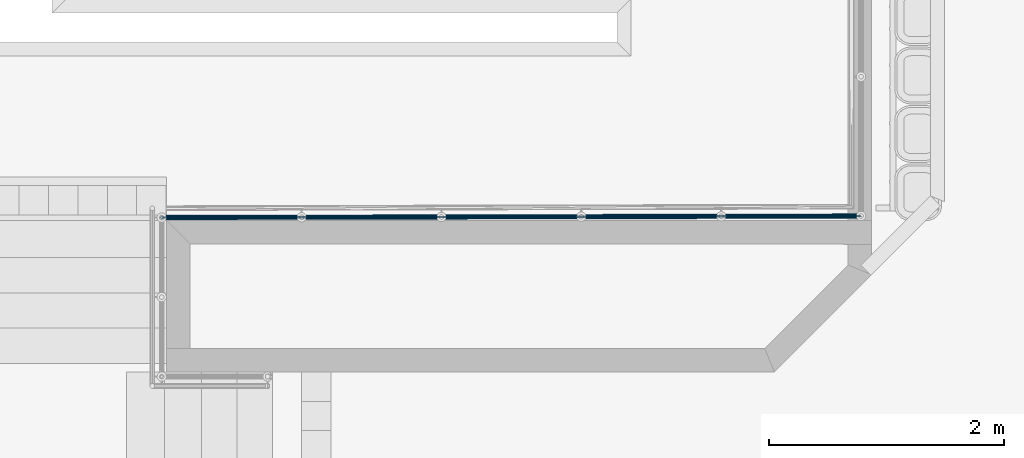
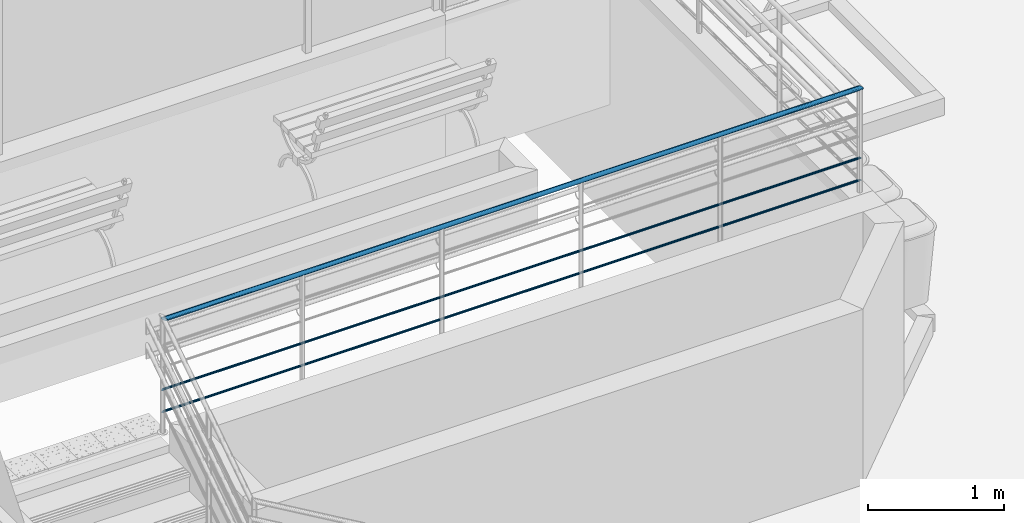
# One storey, part 68 of 237: 4 building element parts, 1 element without a shape of its own.
"""IFC2X3 building model written with IfcOpenShell, lengths in millimetres."""

import ifcopenshell
import ifcopenshell.guid

model = None  # the IFC model being written
_history = None  # IfcOwnerHistory: only IFC2X3 demands one
_inside = {}  # id of a spatial element -> (the spatial element, [elements in it])
_under = {}  # id of a project, library or spatial element -> (it, [spatial elements below it])
_declared = {}  # id of a project -> (the project, [libraries it declares])
_typed = {}  # id of a type object -> (the type object, [elements of that type])
_made_of = {}  # id of a material, layer set ... -> (it, [elements and type objects made of it])


def new_model(schema):
    """Start an empty IFC model of exactly this schema.

    Asked for "IFC4X3", IfcOpenShell would pick the latest addendum, in which some entities
    have other attributes; the version numbers below select the first issue.
    IFC2X3 requires an IfcOwnerHistory on every rooted entity: one is made here for all.
    """
    global model, _history
    if schema == "IFC4X3":
        model = ifcopenshell.file(schema_version=(4, 3, 0, 0))
    else:
        model = ifcopenshell.file(schema=schema)
    _inside.clear()
    _under.clear()
    _declared.clear()
    _typed.clear()
    _made_of.clear()
    _history = None
    if model.schema == "IFC2X3":
        org = make("IfcOrganization", Name="unknown")
        user = make(
            "IfcPersonAndOrganization",
            ThePerson=make("IfcPerson", FamilyName="unknown"),
            TheOrganization=org,
        )
        app = make(
            "IfcApplication",
            ApplicationDeveloper=org,
            Version="unknown",
            ApplicationFullName="unknown",
            ApplicationIdentifier="unknown",
        )
        _history = make(
            "IfcOwnerHistory",
            OwningUser=user,
            OwningApplication=app,
            ChangeAction="ADDED",
            CreationDate=0,
        )
    return model


def make(cls, **values):
    """One entity of the class cls with the attributes given. An attribute that is None is left unset."""
    return model.create_entity(
        cls, **{name: value for name, value in values.items() if value is not None}
    )


def entity(cls, *values):
    """Any entity or typed value of the class cls, its attributes in the order of the schema. None: left unset."""
    e = model.create_entity(cls)
    for i, value in enumerate(values):
        if value is not None:
            e[i] = value
    return e


def rooted(cls, **values):
    """An entity with a GlobalId (a new one), such as an element, a storey or a relation."""
    return make(cls, GlobalId=ifcopenshell.guid.new(), OwnerHistory=_history, **values)


def si_unit(unit_type, name, prefix=None):
    """IfcSIUnit, for example si_unit("LENGTHUNIT", "METRE", prefix="MILLI")."""
    return make("IfcSIUnit", UnitType=unit_type, Prefix=prefix, Name=name)


def converted_unit(unit_type, name, factor, base, dimensions=None, offset=None):
    """IfcConversionBasedUnit, such as the inch: factor (a typed value) times the base unit."""
    return make(
        "IfcConversionBasedUnit"
        if offset is None
        else "IfcConversionBasedUnitWithOffset",
        ConversionOffset=offset,
        Dimensions=None
        if dimensions is None
        else entity("IfcDimensionalExponents", *dimensions),
        UnitType=unit_type,
        Name=name,
        ConversionFactor=make(
            "IfcMeasureWithUnit", ValueComponent=factor, UnitComponent=base
        ),
    )


def derived_unit(unit_type, elements):
    """IfcDerivedUnit: a product of units, each with its exponent."""
    return make(
        "IfcDerivedUnit",
        Elements=[
            make("IfcDerivedUnitElement", Unit=unit, Exponent=power)
            for unit, power in elements
        ],
        UnitType=unit_type,
    )


def money_unit(currency):
    """IfcMonetaryUnit."""
    return make("IfcMonetaryUnit", Currency=currency)


def assignment(units):
    """IfcUnitAssignment: the units of a project."""
    return None if units is None else make("IfcUnitAssignment", Units=units)


def point(xyz):
    """IfcCartesianPoint."""
    return None if xyz is None else make("IfcCartesianPoint", Coordinates=xyz)


def direction(xyz):
    """IfcDirection."""
    return None if xyz is None else make("IfcDirection", DirectionRatios=xyz)


def frame(location, z_axis=None, x_axis=None):
    """IfcAxis2Placement3D, a coordinate frame: its origin and axes. An axis left out is left unset."""
    return make(
        "IfcAxis2Placement3D",
        Location=point(location),
        Axis=direction(z_axis),
        RefDirection=direction(x_axis),
    )


def origin_with_axes():
    """The frame at (0, 0, 0) with the z axis (0, 0, 1) and the x axis (1, 0, 0) written out."""
    return frame((0.0, 0.0, 0.0), z_axis=(0.0, 0.0, 1.0), x_axis=(1.0, 0.0, 0.0))


def place(relative_to, where):
    """IfcLocalPlacement: puts the frame where relative to a parent placement (None: the world)."""
    return make(
        "IfcLocalPlacement", PlacementRelTo=relative_to, RelativePlacement=where
    )


def context(
    kind, dimensions, precision=None, world=None, true_north=None, identifier=None
):
    """IfcGeometricRepresentationContext, for example the 3D "Model" context."""
    return make(
        "IfcGeometricRepresentationContext",
        ContextIdentifier=identifier,
        ContextType=kind,
        CoordinateSpaceDimension=dimensions,
        Precision=precision,
        WorldCoordinateSystem=world,
        TrueNorth=true_north,
    )


def subcontext(parent, identifier, kind, view, scale=None):
    """IfcGeometricRepresentationSubContext, for example "Body" below "Model"."""
    return make(
        "IfcGeometricRepresentationSubContext",
        ContextIdentifier=identifier,
        ContextType=kind,
        ParentContext=parent,
        TargetScale=scale,
        TargetView=view,
    )


def project(units=None, contexts=None):
    """IfcProject with its units and contexts."""
    return rooted(
        "IfcProject",
        Name="project",
        RepresentationContexts=contexts,
        UnitsInContext=assignment(units),
    )


def spatial(cls, under=None, at=None, **own):
    """A site, building, storey or space (cls), placed at a placement, below another one or the project."""
    s = rooted(cls, ObjectPlacement=at, **own)
    if under is not None:
        _under.setdefault(under.id(), (under, []))[1].append(s)
    return s


def faces_of(points, faces, orient=None, outer=None):
    """IfcFace entities. A face is a list of loops; a loop is a list of indices into points, from 0.

    orient and outer hold one flag for each loop. By default every Orientation is true, the
    first loop of a face is its IfcFaceOuterBound and the others are IfcFaceBound.
    """
    made = []
    for i, loops in enumerate(faces):
        bounds = []
        for j, loop in enumerate(loops):
            is_outer = j == 0 if outer is None else outer[i][j]
            bounds.append(
                make(
                    "IfcFaceOuterBound" if is_outer else "IfcFaceBound",
                    Bound=make("IfcPolyLoop", Polygon=[points[k] for k in loop]),
                    Orientation=True if orient is None else orient[i][j],
                )
            )
        made.append(make("IfcFace", Bounds=bounds))
    return made


def faceted_brep(points, faces, orient=None, outer=None, voids=None):
    """IfcFacetedBrep: a solid bounded by flat faces; with voids (closed shells), ...WithVoids."""
    shared = [point(p) for p in points]
    hull = make("IfcClosedShell", CfsFaces=faces_of(shared, faces, orient, outer))
    if voids is None:
        return make("IfcFacetedBrep", Outer=hull)
    return make(
        "IfcFacetedBrepWithVoids",
        Outer=hull,
        Voids=[
            make(cls, CfsFaces=faces_of(shared, fs, o, b)) for cls, fs, o, b in voids
        ],
    )


def shape(context_of_items, identifier, shape_type, items):
    """IfcShapeRepresentation: the items that make up one representation, for example the "Body"."""
    return make(
        "IfcShapeRepresentation",
        ContextOfItems=context_of_items,
        RepresentationIdentifier=identifier,
        RepresentationType=shape_type,
        Items=items,
    )


def material(Name=None, Category=None):
    """IfcMaterial."""
    return make("IfcMaterial", Name=Name, Category=Category)


def made_of(thing, what):
    """Note that an element or type object is made of a material, layer set ...; save() writes the relation."""
    if what is not None:
        _made_of.setdefault(what.id(), (what, []))[1].append(thing)
    return thing


def type_object(cls, material=None, **own):
    """A type object (cls), such as IfcWallType, which elements share."""
    return made_of(rooted(cls, **own), material)


def element(
    cls,
    number,
    at=None,
    inside=None,
    cuts=None,
    type_object=None,
    material=None,
    context=None,
    identifier="Body",
    shape_type=None,
    held_by="IfcProductDefinitionShape",
    body=None,
    shapes=None,
    **own,
):
    """One element of the class cls, such as IfcWall. Its Tag is "e" and its number.

    at: its placement. inside: the storey or other place that contains it. cuts: it is an
    opening in that element (IfcRelVoidsElement). A single representation is given by context,
    identifier, shape_type and body (its items); several are given by shapes. held_by: the class
    of the entity that holds the representations. save() writes the other relations.
    """
    e = rooted(cls, Tag="e%d" % number, ObjectPlacement=at, **own)
    if body is not None:
        shapes = [shape(context, identifier, shape_type, body)]
    if shapes is not None:
        e.Representation = make(held_by, Representations=shapes)
    if inside is not None:
        _inside.setdefault(inside.id(), (inside, []))[1].append(e)
    if cuts is not None:
        rooted(
            "IfcRelVoidsElement", RelatingBuildingElement=cuts, RelatedOpeningElement=e
        )
    if type_object is not None:
        _typed.setdefault(type_object.id(), (type_object, []))[1].append(e)
    return made_of(e, material)


def aggregate(whole, parts):
    """IfcRelAggregates: a whole, such as a stair, and the parts it consists of."""
    return rooted("IfcRelAggregates", RelatingObject=whole, RelatedObjects=parts)


def save(model, path):
    """Write the relations noted so far, then the file.

    IfcRelAggregates (storeys below a building ...), IfcRelContainedInSpatialStructure (elements
    in a storey), IfcRelDefinesByType, IfcRelAssociatesMaterial and IfcRelDeclares: one each for
    every whole, place, type object, material and project.
    """
    for whole, parts in _under.values():
        aggregate(whole, parts)
    for where, things in _inside.values():
        rooted(
            "IfcRelContainedInSpatialStructure",
            RelatedElements=things,
            RelatingStructure=where,
        )
    for kind, things in _typed.values():
        rooted("IfcRelDefinesByType", RelatedObjects=things, RelatingType=kind)
    for what, things in _made_of.values():
        rooted("IfcRelAssociatesMaterial", RelatedObjects=things, RelatingMaterial=what)
    for by, libraries in _declared.values():
        rooted("IfcRelDeclares", RelatingContext=by, RelatedDefinitions=libraries)
    model.write(path)


model = new_model("IFC2X3")

# Units and contexts
model_context = context("Model", 3, precision=0.01, world=origin_with_axes(), true_north=direction((0.0, 1.0)))
body_context = subcontext(model_context, "Body", "Model", "MODEL_VIEW")
ifc_project = project(units=[si_unit("LENGTHUNIT", "METRE", prefix="MILLI"), si_unit("AREAUNIT", "SQUARE_METRE"), si_unit("VOLUMEUNIT", "CUBIC_METRE"), converted_unit("PLANEANGLEUNIT", "DEGREE", entity("IfcPlaneAngleMeasure", 0.0174532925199), si_unit("PLANEANGLEUNIT", "RADIAN"), dimensions=[0, 0, 0, 0, 0, 0, 0]), money_unit("USD"), converted_unit("TIMEUNIT", "Year", entity("IfcTimeMeasure", 31556926.0), si_unit("TIMEUNIT", "SECOND"), dimensions=[0, 0, 1, 0, 0, 0, 0]), si_unit("MASSUNIT", "GRAM", prefix="KILO"), si_unit("THERMODYNAMICTEMPERATUREUNIT", "DEGREE_CELSIUS"), si_unit("LUMINOUSINTENSITYUNIT", "LUMEN"), si_unit("ENERGYUNIT", "JOULE", prefix="MEGA"), derived_unit("THERMALCONDUCTANCEUNIT", [(si_unit("POWERUNIT", "WATT"), 1), (si_unit("LENGTHUNIT", "METRE"), -1), (si_unit("THERMODYNAMICTEMPERATUREUNIT", "KELVIN"), -1)]), derived_unit("SPECIFICHEATCAPACITYUNIT", [(si_unit("ENERGYUNIT", "JOULE"), 1), (si_unit("MASSUNIT", "GRAM", prefix="KILO"), -1), (si_unit("THERMODYNAMICTEMPERATUREUNIT", "KELVIN"), -1)]), derived_unit("MASSDENSITYUNIT", [(si_unit("MASSUNIT", "GRAM", prefix="KILO"), 1), (si_unit("VOLUMEUNIT", "CUBIC_METRE"), -1)])], contexts=[model_context])

# Site, building, storey
site_placement = place(None, origin_with_axes())
site = spatial("IfcSite", under=ifc_project, at=site_placement, Name="Local", CompositionType="ELEMENT")
building_placement = place(site_placement, origin_with_axes())
building = spatial("IfcBuilding", under=site, at=building_placement, Name="Construção", CompositionType="ELEMENT")
storey_placement = place(building_placement, origin_with_axes())
storey = spatial("IfcBuildingStorey", under=building, at=storey_placement, Name="Pavimento Térreo", CompositionType="ELEMENT", Elevation=0.0)

# Railing, building element parts
railing_type = type_object("IfcRailingType", Name="Tipo de Guarda-Corpo", PredefinedType="NOTDEFINED")
railing_placement = place(storey_placement, frame((84562.8908804, 21657.2175927, -4868.39227091), z_axis=(0.0, 0.0, 1.0), x_axis=(1.0, 0.0, 0.0)))
railing = element("IfcRailing", 1, at=railing_placement, inside=storey, type_object=railing_type, Name="Guarda-Corpo - 002", PredefinedType="NOTDEFINED")
ifc_material = material(Name="Aço - Inoxidável")
building_element_part_1_placement = place(railing_placement, origin_with_axes())
building_element_part_1 = element("IfcBuildingElementPart", 2, at=building_element_part_1_placement, material=ifc_material, Name="Aço - Inoxidável", context=body_context, shape_type="Brep", body=[
    faceted_brep([(-3820.60138333, 2014.03658686, 2406.66292514), (-3824.08766369, 2016.88554524, 2408.6663817), (-3827.54078629, 2020.03894753, 2410.14306235), (-3830.85565184, 2023.40081169, 2411.04803051), (-3833.93138467, 2026.86880841, 2411.35378267), (-3836.67315492, 2030.33579677, 2411.05122421), (-3838.99936327, 2033.69816753, 2410.15001255), (-3840.83932904, 2036.85375676, 2408.67753055), (-3842.13714581, 2039.70668348, 2406.67851884), (-3842.85338007, 2042.17026296, 2404.21371638), (-3842.96626942, 2044.16964057, 2401.35801493), (-3842.47238375, 2045.64406624, 2398.19818355), (-3841.38672954, 2046.5487403, 2394.83023211), (-3839.74229385, 2046.85617467, 2391.35649411), (-3837.58904201, 2046.55702813, 2387.88251732), (-3834.9923995, 2045.66039009, 2384.51385677), (-3832.03222521, 2044.19397291, 2381.35390539), (-3828.7983969, 2042.20264072, 2378.49808552), (-3825.3886159, 2039.74672653, 2376.03241713), (-3821.90632551, 2036.90076522, 2374.03165701), (-3818.4571526, 2033.7510936, 2372.55647581), (-3815.14572007, 2030.39324375, 2371.65162924), (-3815.13522271, 2030.3825929, 2371.64877056), (-3812.07248955, 2026.9290608, 2371.34460616), (-3812.06117105, 2026.91629428, 2371.34348793), (-3809.33072744, 2023.46363036, 2371.64479371), (-3809.31938103, 2023.44927793, 2371.64605315), (-3807.00368458, 2020.10210624, 2372.54318489), (-3806.99316141, 2020.08688863, 2372.54727261), (-3805.16207325, 2016.94653237, 2374.01263838), (-3805.15319359, 2016.93129163, 2374.01976276), (-3803.86191776, 2014.09275347, 2376.00868434), (-3803.85538395, 2014.07836834, 2376.01878225), (-3803.14284385, 2011.62750703, 2378.47085408), (-3803.13916517, 2011.61480297, 2378.48359139), (-3803.02686004, 2009.62578443, 2381.32449577), (-3803.02629818, 2009.61544877, 2381.33929781), (-3803.51766969, 2008.14854201, 2384.48302355), (-3803.52021106, 2008.14105371, 2384.49913201), (-3804.60053693, 2007.24083262, 2387.85053399), (-3804.60589507, 2007.23641489, 2387.8670839), (-3806.24271325, 2006.93041664, 2391.32471215), (-3806.25036082, 2006.9290176, 2391.34081999), (-3808.39441407, 2007.2268969, 2394.79993975), (-3808.40364084, 2007.22820037, 2394.81479276), (-3810.99031807, 2008.12140647, 2398.17051125), (-3811.00030795, 2008.12487145, 2398.18344765), (-3813.95154507, 2009.58686108, 2401.33385906), (-3813.96146333, 2009.59178517, 2401.34443021), (-3817.18805334, 2011.57877071, 2404.19368855), (2123.34817344, 2027.00611759, 2403.87766852), (2120.49572182, 2029.85894047, 2405.87728369), (2117.33856079, 2033.01407833, 2407.35062506), (2113.97261909, 2036.37566389, 2408.25292588), (2110.50016915, 2039.84155707, 2408.55677021), (-3833.93910679, 2030.34176338, 2411.04993776), (-3833.94688022, 2033.70919375, 2410.14763522), (2107.02671961, 2043.30644848, 2408.25292588), (-3833.95446875, 2036.86878184, 2408.67429104), (2103.65780947, 2046.66505913, 2407.35062506), (2100.49580137, 2049.81533934, 2405.87728369), (-3833.96164181, 2039.72452518, 2406.67467205), (-3833.96818147, 2042.18965345, 2404.20953565), (2097.63677131, 2052.66156944, 2403.87766852), (2095.16758949, 2055.11726817, 2401.41253682), (-3833.973889, 2044.18926497, 2401.35378378), (2093.16328074, 2057.10782036, 2398.55679039), (-3833.97859099, 2045.66260256, 2398.19418699), (2091.68474496, 2058.5727441, 2395.39719963), (-3833.98214457, 2046.56489959, 2394.82674805), (-3833.98444178, 2046.86874024, 2391.35378488), (2090.77690673, 2059.46752842, 2392.02976711), (-3833.9854128, 2046.56489246, 2387.88082171), (2090.46735024, 2059.76498575, 2388.55681057), (-3833.98502814, 2045.66258851, 2384.51338277), (2090.76548122, 2059.45607799, 2385.08385402), (2091.6622411, 2058.55019116, 2381.7164215), (2093.13038228, 2057.07485017, 2378.55683075), (2095.12529605, 2055.0748825, 2375.70108432), (2097.58636796, 2052.61105617, 2373.23595262), (2100.43881958, 2049.75823328, 2371.23633744), (2103.59598061, 2046.60309543, 2369.76299608), (2106.96192231, 2043.24150987, 2368.86069525), (2110.43437225, 2039.77561668, 2368.55685093), (2113.90782179, 2036.31072527, 2368.86069525), (2117.27673193, 2032.95211462, 2369.76299608), (2120.43874003, 2029.80183441, 2371.23633744), (2123.29777009, 2026.95560431, 2373.23595262), (2125.76695191, 2024.49990558, 2375.70108432), (2127.77126066, 2022.50935339, 2378.55683075), (2129.24979644, 2021.04442965, 2381.7164215), (2130.15763467, 2020.14964533, 2385.08385402), (2130.46719116, 2019.85218801, 2388.55681057), (2130.16906018, 2020.16109576, 2392.02976711), (2129.2723003, 2021.06698259, 2395.39719963), (2127.80415911, 2022.54232359, 2398.55679039), (2125.80924534, 2024.54229125, 2401.41253682)], [[[0, 1, 2, 3, 4, 5, 6, 7, 8, 9, 10, 11, 12, 13, 14, 15, 16, 17, 18, 19, 20, 21, 22, 23, 24, 25, 26, 27, 28, 29, 30, 31, 32, 33, 34, 35, 36, 37, 38, 39, 40, 41, 42, 43, 44, 45, 46, 47, 48, 49]], [[1, 0, 50]], [[2, 1, 51]], [[3, 2, 52]], [[4, 3, 53]], [[5, 4, 54, 55]], [[56, 6, 5, 55, 57]], [[58, 7, 6, 56, 59]], [[8, 7, 58, 60, 61]], [[62, 9, 8, 61, 63]], [[10, 9, 62, 64, 65]], [[11, 10, 65, 66, 67]], [[11, 67, 68, 69, 12]], [[70, 13, 12, 69, 71]], [[72, 14, 13, 70, 73]], [[74, 15, 14, 72, 75]], [[15, 74, 76, 16]], [[17, 16, 77]], [[18, 17, 78]], [[19, 18, 79]], [[20, 19, 80]], [[21, 20, 81]], [[22, 21, 81, 82]], [[22, 82, 23]], [[23, 82, 83, 24]], [[25, 24, 83]], [[26, 25, 83, 84]], [[27, 26, 84]], [[28, 27, 84, 85]], [[29, 28, 85]], [[30, 29, 85, 86]], [[31, 30, 86]], [[32, 31, 86, 87]], [[33, 32, 87]], [[34, 33, 87, 88]], [[35, 34, 88]], [[36, 35, 88, 89]], [[37, 36, 89]], [[38, 37, 89, 90]], [[39, 38, 90]], [[40, 39, 90, 91]], [[41, 40, 91]], [[42, 41, 91, 92]], [[43, 42, 92]], [[44, 43, 92, 93]], [[45, 44, 93]], [[46, 45, 93, 94]], [[47, 46, 94]], [[48, 47, 94, 95]], [[49, 48, 95]], [[0, 49, 96]], [[0, 96, 50]], [[1, 50, 51]], [[2, 51, 52]], [[3, 52, 53]], [[54, 4, 53]], [[57, 55, 54]], [[56, 57, 59]], [[60, 58, 59]], [[63, 61, 60]], [[62, 63, 64]], [[65, 64, 66]], [[68, 67, 66]], [[71, 69, 68]], [[73, 70, 71]], [[72, 73, 75]], [[74, 75, 76]], [[77, 16, 76]], [[17, 77, 78]], [[79, 18, 78]], [[19, 79, 80]], [[20, 80, 81]], [[81, 80, 79, 78, 77, 76, 75, 73, 71, 68, 66, 64, 63, 60, 59, 57, 54, 53, 52, 51, 50, 96, 95, 94, 93, 92, 91, 90, 89, 88, 87, 86, 85, 84, 83, 82]], [[49, 95, 96]]]),
])
building_element_part_2_placement = place(railing_placement, origin_with_axes())
building_element_part_2 = element("IfcBuildingElementPart", 3, at=building_element_part_2_placement, material=ifc_material, Name="Aço - Inoxidável", context=body_context, shape_type="Brep", body=[
    faceted_brep([(-3843.77565003, 2025.110839, 1551.51033696), (-3843.32082562, 2023.42810791, 1551.96127579), (-3842.58070981, 2021.84992076, 1552.69759917), (-3841.57778776, 2020.42422998, 1553.69693717), (-3840.34253565, 2019.19435445, 1554.92892253), (-3838.91247321, 2018.19765666, 1556.35613474), (-3837.33107074, 2017.46443222, 1557.93519015), (-3835.64637053, 2017.01695764, 1559.61811776), (-3833.90956136, 2016.86883222, 1561.35378267), (-3832.17391982, 2017.02449776, 1563.08894316), (-3830.49068167, 2017.47937857, 1564.77237772), (-3828.91249367, 2018.21950372, 1566.351434), (-3827.48834022, 2019.22134686, 1567.77709944), (-3826.25693786, 2020.45768144, 1569.01061642), (-3825.26169578, 2021.88565835, 1570.00850281), (-3824.52817872, 2023.46664852, 1570.74512169), (-3824.07954091, 2025.15384935, 1571.19722769), (-3823.93165735, 2026.88773952, 1571.34882346), (-3824.08711498, 2028.62680466, 1571.19723277), (-3824.54193692, 2030.30953335, 1570.74629641), (-3825.28205202, 2031.88771683, 1570.00997373), (-3826.2836818, 2033.31156698, 1569.01192336), (-3827.52024547, 2034.543289, 1567.7786311), (-3828.95029959, 2035.53997236, 1566.35142717), (-3830.53078996, 2036.27277056, 1564.77328251), (-3832.21640016, 2036.72065754, 1563.08944623), (-3833.95320798, 2036.86878459, 1561.35378267), (-3835.68935407, 2036.71307031, 1559.61811776), (-3837.37208515, 2036.2582435, 1557.93519015), (-3838.95027229, 2035.51812447, 1556.35613474), (-3840.37595737, 2034.51520686, 1554.92893606), (-3841.60583506, 2033.27995158, 1553.69694538), (-3842.60252716, 2031.84989696, 1552.69760513), (-3843.3357517, 2030.26849449, 1551.96127773), (-3843.7832277, 2028.58379428, 1551.51033844), (-3843.93136117, 2026.8469851, 1551.3584865), (-3833.93222885, 2025.13232065, 1551.50570623), (2112.2204447, 2038.09262627, 1548.70871255), (-3833.92834214, 2023.44860547, 1551.9568575), (2113.90489977, 2036.41332095, 1549.15986296), (-3833.92454788, 2021.86881142, 1552.69352959), (2115.48590382, 2034.83818084, 1549.89653365), (-3833.92096134, 2020.44093975, 1553.69333909), (2116.91541884, 2033.41506579, 1550.89634124), (-3833.91769152, 2019.20837562, 1554.92590728), (2118.15000976, 2032.18721643, 1552.12890708), (-3833.91483775, 2018.20856986, 1556.35378322), (2119.15216413, 2031.19194033, 1553.5567803), (-3833.91248676, 2017.47190106, 1557.93358161), (2119.89143202, 2030.45947846, 1555.13657568), (-3833.91070996, 2017.02075254, 1559.61730109), (2120.34535114, 2030.0120863, 1556.82029194), (2120.50012938, 2029.86335764, 1558.55677021), (2120.35106389, 2030.01781152, 1560.29324848), (2119.90268395, 2030.47075493, 1561.97696474), (2119.16861336, 2031.20842543, 1563.55676012), (2118.17115647, 2032.20840926, 1564.98463334), (2116.94062052, 2033.44032243, 1566.21719918), (2115.51439471, 2034.86673387, 1567.21700677), (2113.9358142, 2036.4443028, 1567.95367746), (2112.25284335, 2038.12509558, 1568.40482787), (2110.51661838, 2039.85804217, 1568.55675003), (2108.77989361, 2041.59048788, 1568.40482787), (2107.09543854, 2043.2697932, 1567.95367746), (2105.51443448, 2044.84493331, 1567.21700677), (2104.08491946, 2046.26804836, 1566.21719918), (2102.85032854, 2047.49589772, 1564.98463334), (2101.84817417, 2048.49117382, 1563.55676012), (2101.10890628, 2049.22363569, 1561.97696474), (2100.65498717, 2049.67102785, 1560.29324848), (-3833.95369349, 2036.7168607, 1559.61730109), (2100.50020892, 2049.81975651, 1558.55677021), (-3833.95350116, 2036.26570873, 1557.93358161), (2100.64927441, 2049.66530263, 1556.82029194), (-3833.95263683, 2035.52903669, 1556.35378322), (2101.09765435, 2049.21235922, 1555.13657568), (2101.83172494, 2048.47468872, 1553.5567803), (-3833.95112677, 2034.529228, 1554.92590728), (-3833.94901685, 2033.29666133, 1553.69333909), (2102.82918183, 2047.47470489, 1552.12890708), (-3833.94637119, 2031.86878761, 1552.69352959), (2104.05971778, 2046.24279172, 1550.89634124), (2105.48594359, 2044.81638028, 1549.89653365), (-3833.94327016, 2030.28899205, 1551.9568575), (2107.0645241, 2043.23881135, 1549.15986296), (-3833.93980801, 2028.60527594, 1551.50570623), (2108.74749496, 2041.55801857, 1548.70871255), (-3833.93608991, 2026.86879814, 1551.35378378), (2110.48371992, 2039.82507198, 1548.55679039)], [[[0, 1, 2, 3, 4, 5, 6, 7, 8, 9, 10, 11, 12, 13, 14, 15, 16, 17, 18, 19, 20, 21, 22, 23, 24, 25, 26, 27, 28, 29, 30, 31, 32, 33, 34, 35]], [[1, 0, 36, 37, 38]], [[2, 1, 38, 39, 40]], [[3, 2, 40, 41, 42]], [[4, 3, 42, 43, 44]], [[5, 4, 44, 45, 46]], [[6, 5, 46, 47, 48]], [[7, 6, 48, 49, 50]], [[7, 50, 51, 8]], [[9, 8, 52]], [[10, 9, 53]], [[11, 10, 54]], [[12, 11, 55]], [[13, 12, 56]], [[14, 13, 57]], [[15, 14, 58]], [[16, 15, 59]], [[17, 16, 60]], [[18, 17, 61]], [[19, 18, 62]], [[20, 19, 63]], [[21, 20, 64]], [[22, 21, 65]], [[23, 22, 66]], [[24, 23, 67]], [[25, 24, 68]], [[26, 25, 69]], [[70, 27, 26, 71]], [[72, 28, 27, 70, 73]], [[74, 29, 28, 72, 75]], [[30, 29, 74, 76, 77]], [[78, 31, 30, 77, 79]], [[80, 32, 31, 78, 81]], [[33, 32, 80, 82, 83]], [[34, 33, 83, 84, 85]], [[35, 34, 85, 86, 87]], [[0, 35, 87, 88, 36]], [[36, 88, 37]], [[39, 38, 37]], [[41, 40, 39]], [[43, 42, 41]], [[44, 43, 45]], [[47, 46, 45]], [[48, 47, 49]], [[50, 49, 51]], [[8, 51, 52]], [[53, 9, 52]], [[54, 10, 53]], [[55, 11, 54]], [[56, 12, 55]], [[57, 13, 56]], [[58, 14, 57]], [[15, 58, 59]], [[59, 60, 16]], [[61, 17, 60]], [[62, 18, 61]], [[63, 19, 62]], [[64, 20, 63]], [[64, 65, 21]], [[65, 66, 22]], [[66, 67, 23]], [[68, 24, 67]], [[69, 25, 68]], [[71, 26, 69]], [[73, 70, 71]], [[75, 72, 73]], [[76, 74, 75]], [[79, 77, 76]], [[81, 78, 79]], [[82, 80, 81]], [[84, 83, 82]], [[85, 84, 86]], [[87, 86, 88]], [[84, 82, 81, 79, 76, 75, 73, 71, 69, 68, 67, 66, 65, 64, 63, 62, 61, 60, 59, 58, 57, 56, 55, 54, 53, 52, 51, 49, 47, 45, 43, 41, 39, 37, 88, 86]]]),
])
building_element_part_3_placement = place(railing_placement, origin_with_axes())
building_element_part_3 = element("IfcBuildingElementPart", 4, at=building_element_part_3_placement, material=ifc_material, Name="Aço - Inoxidável", context=body_context, shape_type="Brep", body=[
    faceted_brep([(-3843.77565003, 2025.110839, 1751.51033696), (-3843.32082562, 2023.42810791, 1751.96127579), (-3842.58070981, 2021.84992076, 1752.69759917), (-3841.57778776, 2020.42422998, 1753.69693717), (-3840.34253565, 2019.19435445, 1754.92892253), (-3838.91247321, 2018.19765666, 1756.35613474), (-3837.33107074, 2017.46443222, 1757.93519015), (-3835.64637053, 2017.01695764, 1759.61811776), (-3833.90956136, 2016.86883222, 1761.35378267), (-3832.17391982, 2017.02449776, 1763.08894316), (-3830.49068167, 2017.47937857, 1764.77237772), (-3828.91249367, 2018.21950372, 1766.351434), (-3827.48834022, 2019.22134686, 1767.77709944), (-3826.25693786, 2020.45768144, 1769.01061642), (-3825.26169578, 2021.88565835, 1770.00850281), (-3824.52817872, 2023.46664852, 1770.74512169), (-3824.07954091, 2025.15384935, 1771.19722769), (-3823.93165735, 2026.88773952, 1771.34882346), (-3824.08711498, 2028.62680466, 1771.19723277), (-3824.54193692, 2030.30953335, 1770.74629641), (-3825.28205202, 2031.88771683, 1770.00997373), (-3826.2836818, 2033.31156698, 1769.01192336), (-3827.52024547, 2034.543289, 1767.7786311), (-3828.95029959, 2035.53997236, 1766.35142717), (-3830.53078996, 2036.27277056, 1764.77328251), (-3832.21640016, 2036.72065754, 1763.08944623), (-3833.95320798, 2036.86878459, 1761.35378267), (-3835.68935407, 2036.71307031, 1759.61811776), (-3837.37208515, 2036.2582435, 1757.93519015), (-3838.95027229, 2035.51812447, 1756.35613474), (-3840.37595737, 2034.51520686, 1754.92893606), (-3841.60583506, 2033.27995158, 1753.69694538), (-3842.60252716, 2031.84989696, 1752.69760513), (-3843.3357517, 2030.26849449, 1751.96127773), (-3843.7832277, 2028.58379428, 1751.51033844), (-3843.93136117, 2026.8469851, 1751.3584865), (-3833.93222885, 2025.13232065, 1751.50570623), (2112.2204447, 2038.09262627, 1748.70871255), (-3833.92834214, 2023.44860547, 1751.9568575), (2113.90489977, 2036.41332095, 1749.15986296), (-3833.92454788, 2021.86881142, 1752.69352959), (2115.48590382, 2034.83818084, 1749.89653365), (-3833.92096134, 2020.44093975, 1753.69333909), (2116.91541884, 2033.41506579, 1750.89634124), (-3833.91769152, 2019.20837562, 1754.92590728), (2118.15000976, 2032.18721643, 1752.12890708), (-3833.91483775, 2018.20856986, 1756.35378322), (2119.15216413, 2031.19194033, 1753.5567803), (-3833.91248676, 2017.47190106, 1757.93358161), (2119.89143202, 2030.45947846, 1755.13657568), (-3833.91070996, 2017.02075254, 1759.61730109), (2120.34535114, 2030.0120863, 1756.82029194), (2120.50012938, 2029.86335764, 1758.55677021), (2120.35106389, 2030.01781152, 1760.29324848), (2119.90268395, 2030.47075493, 1761.97696474), (2119.16861336, 2031.20842543, 1763.55676012), (2118.17115647, 2032.20840926, 1764.98463334), (2116.94062052, 2033.44032243, 1766.21719918), (2115.51439471, 2034.86673387, 1767.21700677), (2113.9358142, 2036.4443028, 1767.95367746), (2112.25284335, 2038.12509558, 1768.40482787), (2110.51661838, 2039.85804217, 1768.55675003), (2108.77989361, 2041.59048788, 1768.40482787), (2107.09543854, 2043.2697932, 1767.95367746), (2105.51443448, 2044.84493331, 1767.21700677), (2104.08491946, 2046.26804836, 1766.21719918), (2102.85032854, 2047.49589772, 1764.98463334), (2101.84817417, 2048.49117382, 1763.55676012), (2101.10890628, 2049.22363569, 1761.97696474), (2100.65498717, 2049.67102785, 1760.29324848), (-3833.95369349, 2036.7168607, 1759.61730109), (2100.50020892, 2049.81975651, 1758.55677021), (-3833.95350116, 2036.26570873, 1757.93358161), (2100.64927441, 2049.66530263, 1756.82029194), (-3833.95263683, 2035.52903669, 1756.35378322), (2101.09765435, 2049.21235922, 1755.13657568), (2101.83172494, 2048.47468872, 1753.5567803), (-3833.95112677, 2034.529228, 1754.92590728), (-3833.94901685, 2033.29666133, 1753.69333909), (2102.82918183, 2047.47470489, 1752.12890708), (-3833.94637119, 2031.86878761, 1752.69352959), (2104.05971778, 2046.24279172, 1750.89634124), (2105.48594359, 2044.81638028, 1749.89653365), (-3833.94327016, 2030.28899205, 1751.9568575), (2107.0645241, 2043.23881135, 1749.15986296), (-3833.93980801, 2028.60527594, 1751.50570623), (2108.74749496, 2041.55801857, 1748.70871255), (-3833.93608991, 2026.86879814, 1751.35378378), (2110.48371992, 2039.82507198, 1748.55679039)], [[[0, 1, 2, 3, 4, 5, 6, 7, 8, 9, 10, 11, 12, 13, 14, 15, 16, 17, 18, 19, 20, 21, 22, 23, 24, 25, 26, 27, 28, 29, 30, 31, 32, 33, 34, 35]], [[1, 0, 36, 37, 38]], [[2, 1, 38, 39, 40]], [[3, 2, 40, 41, 42]], [[4, 3, 42, 43, 44]], [[5, 4, 44, 45, 46]], [[6, 5, 46, 47, 48]], [[7, 6, 48, 49, 50]], [[7, 50, 51, 8]], [[9, 8, 52]], [[10, 9, 53]], [[11, 10, 54]], [[12, 11, 55]], [[13, 12, 56]], [[14, 13, 57]], [[15, 14, 58]], [[16, 15, 59]], [[17, 16, 60]], [[18, 17, 61]], [[19, 18, 62]], [[20, 19, 63]], [[21, 20, 64]], [[22, 21, 65]], [[23, 22, 66]], [[24, 23, 67]], [[25, 24, 68]], [[26, 25, 69]], [[70, 27, 26, 71]], [[72, 28, 27, 70, 73]], [[74, 29, 28, 72, 75]], [[30, 29, 74, 76, 77]], [[78, 31, 30, 77, 79]], [[80, 32, 31, 78, 81]], [[33, 32, 80, 82, 83]], [[34, 33, 83, 84, 85]], [[35, 34, 85, 86, 87]], [[0, 35, 87, 88, 36]], [[36, 88, 37]], [[39, 38, 37]], [[41, 40, 39]], [[43, 42, 41]], [[44, 43, 45]], [[47, 46, 45]], [[48, 47, 49]], [[50, 49, 51]], [[8, 51, 52]], [[53, 9, 52]], [[54, 10, 53]], [[55, 11, 54]], [[56, 12, 55]], [[57, 13, 56]], [[58, 14, 57]], [[15, 58, 59]], [[59, 60, 16]], [[61, 17, 60]], [[62, 18, 61]], [[63, 19, 62]], [[64, 20, 63]], [[64, 65, 21]], [[65, 66, 22]], [[66, 67, 23]], [[68, 24, 67]], [[69, 25, 68]], [[71, 26, 69]], [[73, 70, 71]], [[75, 72, 73]], [[76, 74, 75]], [[79, 77, 76]], [[81, 78, 79]], [[82, 80, 81]], [[84, 83, 82]], [[85, 84, 86]], [[87, 86, 88]], [[82, 81, 79, 76, 75, 73, 71, 69, 68, 67, 66, 65, 64, 63, 62, 61, 60, 59, 58, 57, 56, 55, 54, 53, 52, 51, 49, 47, 45, 43, 41, 39, 37, 88, 86, 84]]]),
])
building_element_part_4_placement = place(railing_placement, origin_with_axes())
building_element_part_4 = element("IfcBuildingElementPart", 5, at=building_element_part_4_placement, material=ifc_material, Name="Aço - Inoxidável", context=body_context, shape_type="Brep", body=[
    faceted_brep([(-3843.77565003, 2025.110839, 1751.51033696), (-3843.32082562, 2023.42810791, 1751.96127579), (-3842.58070981, 2021.84992076, 1752.69759917), (-3841.57778776, 2020.42422998, 1753.69693717), (-3840.34253565, 2019.19435445, 1754.92892253), (-3838.91247321, 2018.19765666, 1756.35613474), (-3837.33107074, 2017.46443222, 1757.93519015), (-3835.64637053, 2017.01695764, 1759.61811776), (-3833.90956136, 2016.86883222, 1761.35378267), (-3832.17391982, 2017.02449776, 1763.08894316), (-3830.49068167, 2017.47937857, 1764.77237772), (-3828.91249367, 2018.21950372, 1766.351434), (-3827.48834022, 2019.22134686, 1767.77709944), (-3826.25693786, 2020.45768144, 1769.01061642), (-3825.26169578, 2021.88565835, 1770.00850281), (-3824.52817872, 2023.46664852, 1770.74512169), (-3824.07954091, 2025.15384935, 1771.19722769), (-3823.93165735, 2026.88773952, 1771.34882346), (-3824.08711498, 2028.62680466, 1771.19723277), (-3824.54193692, 2030.30953335, 1770.74629641), (-3825.28205202, 2031.88771683, 1770.00997373), (-3826.2836818, 2033.31156698, 1769.01192336), (-3827.52024547, 2034.543289, 1767.7786311), (-3828.95029959, 2035.53997236, 1766.35142717), (-3830.53078996, 2036.27277056, 1764.77328251), (-3832.21640016, 2036.72065754, 1763.08944623), (-3833.95320798, 2036.86878459, 1761.35378267), (-3835.68935407, 2036.71307031, 1759.61811776), (-3837.37208515, 2036.2582435, 1757.93519015), (-3838.95027229, 2035.51812447, 1756.35613474), (-3840.37595737, 2034.51520686, 1754.92893606), (-3841.60583506, 2033.27995158, 1753.69694538), (-3842.60252716, 2031.84989696, 1752.69760513), (-3843.3357517, 2030.26849449, 1751.96127773), (-3843.7832277, 2028.58379428, 1751.51033844), (-3843.93136117, 2026.8469851, 1751.3584865), (-3833.93222885, 2025.13232065, 1751.50570623), (2112.2204447, 2038.09262627, 1748.70871255), (-3833.92834214, 2023.44860547, 1751.9568575), (2113.90489977, 2036.41332095, 1749.15986296), (-3833.92454788, 2021.86881142, 1752.69352959), (2115.48590382, 2034.83818084, 1749.89653365), (-3833.92096134, 2020.44093975, 1753.69333909), (2116.91541884, 2033.41506579, 1750.89634124), (-3833.91769152, 2019.20837562, 1754.92590728), (2118.15000976, 2032.18721643, 1752.12890708), (-3833.91483775, 2018.20856986, 1756.35378322), (2119.15216413, 2031.19194033, 1753.5567803), (-3833.91248676, 2017.47190106, 1757.93358161), (2119.89143202, 2030.45947846, 1755.13657568), (-3833.91070996, 2017.02075254, 1759.61730109), (2120.34535114, 2030.0120863, 1756.82029194), (2120.50012938, 2029.86335764, 1758.55677021), (2120.35106389, 2030.01781152, 1760.29324848), (2119.90268395, 2030.47075493, 1761.97696474), (2119.16861336, 2031.20842543, 1763.55676012), (2118.17115647, 2032.20840926, 1764.98463334), (2116.94062052, 2033.44032243, 1766.21719918), (2115.51439471, 2034.86673387, 1767.21700677), (2113.9358142, 2036.4443028, 1767.95367746), (2112.25284335, 2038.12509558, 1768.40482787), (2110.51661838, 2039.85804217, 1768.55675003), (2108.77989361, 2041.59048788, 1768.40482787), (2107.09543854, 2043.2697932, 1767.95367746), (2105.51443448, 2044.84493331, 1767.21700677), (2104.08491946, 2046.26804836, 1766.21719918), (2102.85032854, 2047.49589772, 1764.98463334), (2101.84817417, 2048.49117382, 1763.55676012), (2101.10890628, 2049.22363569, 1761.97696474), (2100.65498717, 2049.67102785, 1760.29324848), (-3833.95369349, 2036.7168607, 1759.61730109), (2100.50020892, 2049.81975651, 1758.55677021), (-3833.95350116, 2036.26570873, 1757.93358161), (2100.64927441, 2049.66530263, 1756.82029194), (-3833.95263683, 2035.52903669, 1756.35378322), (2101.09765435, 2049.21235922, 1755.13657568), (2101.83172494, 2048.47468872, 1753.5567803), (-3833.95112677, 2034.529228, 1754.92590728), (-3833.94901685, 2033.29666133, 1753.69333909), (2102.82918183, 2047.47470489, 1752.12890708), (-3833.94637119, 2031.86878761, 1752.69352959), (2104.05971778, 2046.24279172, 1750.89634124), (2105.48594359, 2044.81638028, 1749.89653365), (-3833.94327016, 2030.28899205, 1751.9568575), (2107.0645241, 2043.23881135, 1749.15986296), (-3833.93980801, 2028.60527594, 1751.50570623), (2108.74749496, 2041.55801857, 1748.70871255), (-3833.93608991, 2026.86879814, 1751.35378378), (2110.48371992, 2039.82507198, 1748.55679039)], [[[0, 1, 2, 3, 4, 5, 6, 7, 8, 9, 10, 11, 12, 13, 14, 15, 16, 17, 18, 19, 20, 21, 22, 23, 24, 25, 26, 27, 28, 29, 30, 31, 32, 33, 34, 35]], [[1, 0, 36, 37, 38]], [[2, 1, 38, 39, 40]], [[3, 2, 40, 41, 42]], [[4, 3, 42, 43, 44]], [[5, 4, 44, 45, 46]], [[6, 5, 46, 47, 48]], [[7, 6, 48, 49, 50]], [[7, 50, 51, 8]], [[9, 8, 52]], [[10, 9, 53]], [[11, 10, 54]], [[12, 11, 55]], [[13, 12, 56]], [[14, 13, 57]], [[15, 14, 58]], [[16, 15, 59]], [[17, 16, 60]], [[18, 17, 61]], [[19, 18, 62]], [[20, 19, 63]], [[21, 20, 64]], [[22, 21, 65]], [[23, 22, 66]], [[24, 23, 67]], [[25, 24, 68]], [[26, 25, 69]], [[70, 27, 26, 71]], [[72, 28, 27, 70, 73]], [[74, 29, 28, 72, 75]], [[30, 29, 74, 76, 77]], [[78, 31, 30, 77, 79]], [[80, 32, 31, 78, 81]], [[33, 32, 80, 82, 83]], [[34, 33, 83, 84, 85]], [[35, 34, 85, 86, 87]], [[0, 35, 87, 88, 36]], [[36, 88, 37]], [[39, 38, 37]], [[41, 40, 39]], [[43, 42, 41]], [[44, 43, 45]], [[47, 46, 45]], [[48, 47, 49]], [[50, 49, 51]], [[8, 51, 52]], [[53, 9, 52]], [[54, 10, 53]], [[55, 11, 54]], [[56, 12, 55]], [[57, 13, 56]], [[58, 14, 57]], [[15, 58, 59]], [[59, 60, 16]], [[61, 17, 60]], [[62, 18, 61]], [[63, 19, 62]], [[64, 20, 63]], [[64, 65, 21]], [[65, 66, 22]], [[66, 67, 23]], [[68, 24, 67]], [[69, 25, 68]], [[71, 26, 69]], [[73, 70, 71]], [[75, 72, 73]], [[76, 74, 75]], [[79, 77, 76]], [[81, 78, 79]], [[82, 80, 81]], [[84, 83, 82]], [[85, 84, 86]], [[87, 86, 88]], [[82, 81, 79, 76, 75, 73, 71, 69, 68, 67, 66, 65, 64, 63, 62, 61, 60, 59, 58, 57, 56, 55, 54, 53, 52, 51, 49, 47, 45, 43, 41, 39, 37, 88, 86, 84]]]),
])
aggregate(railing, [building_element_part_1, building_element_part_2, building_element_part_3, building_element_part_4])

save(model, "model.ifc")
